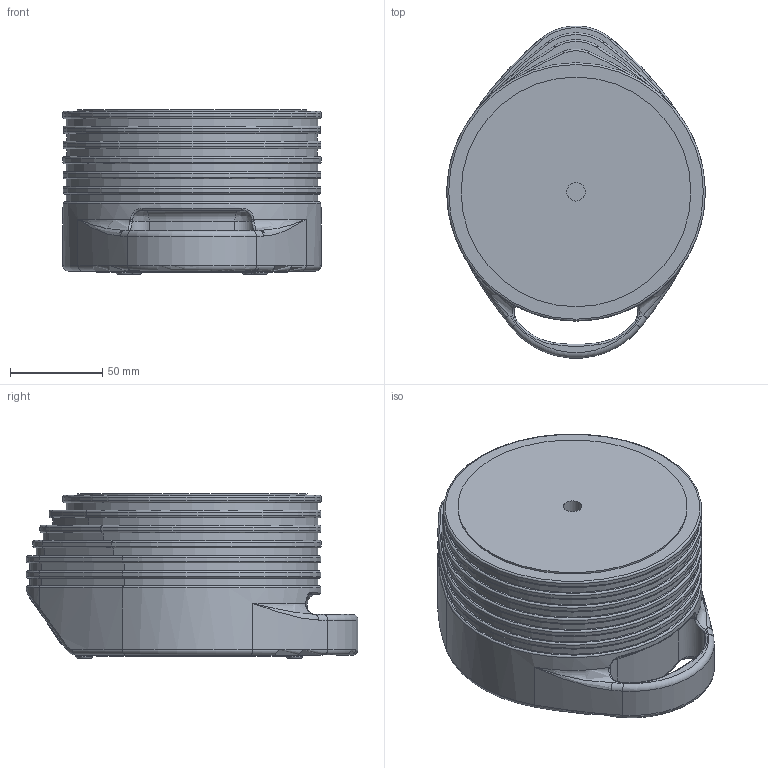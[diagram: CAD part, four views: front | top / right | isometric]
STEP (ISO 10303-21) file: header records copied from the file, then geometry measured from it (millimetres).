
FILE_DESCRIPTION(/* description */ (''),/* implementation_level */ '2;1');
FILE_NAME(/* name */ '577440-010_A-AT500 Absolute Tracker Mockup external.stp',/* time_stamp */ '2021-12-13T13:53:54+01:00',/* author */ (''),/* organization */ (''),/* preprocessor_version */ 'ST-DEVELOPER v18.1',/* originating_system */ 'SIEMENS PLM Software NX 1969',/* authorisation */ '');
FILE_SCHEMA (('AUTOMOTIVE_DESIGN { 1 0 10303 214 3 1 1 1 }'));
Length unit declared in the file: millimetre
Products named in the file (1): FUSI406810BD1p1d
Bounding box: 140 x 179.83 x 89.3 mm (x, y, z)
Volume: 1321141.1 mm3; surface area: 91810.3 mm2
Topology: 1 solids, 4 shells, 247 faces, 567 edges, 347 vertices
Faces by surface type: cylinder 74, torus 72, plane 65, bspline 25, cone 11
Full cylindrical faces by diameter (mm): 4.5 x4, 5 x1, 9 x4, 10 x1, 61.6 x1, 62 x1, 67 x1, 104 x2, 104.5 x1, 124.5 x1, 136.4 x1, 140 x1
Entity records: 7717 total; most frequent: CARTESIAN_POINT 1747, DIRECTION 1268, ORIENTED_EDGE 1026, AXIS2_PLACEMENT_3D 570, EDGE_CURVE 513, CIRCLE 341, VERTEX_POINT 327, EDGE_LOOP 305
